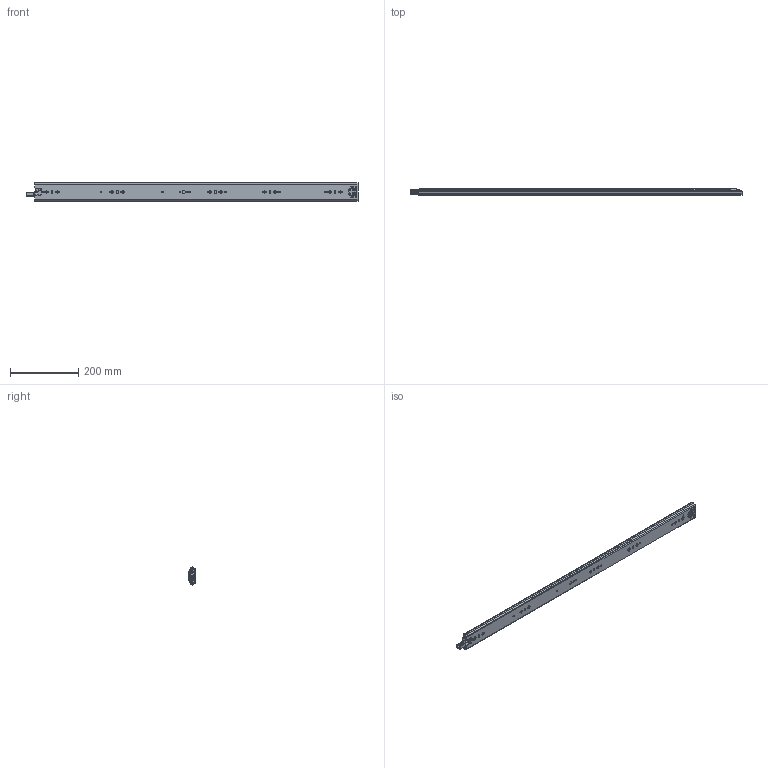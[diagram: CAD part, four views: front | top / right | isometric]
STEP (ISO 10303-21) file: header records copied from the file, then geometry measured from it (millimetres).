
FILE_DESCRIPTION((''),'2;1');
FILE_NAME('1053-3S-38ZUZHUANGTU_ASM','2023-04-12T',('jishu015'),(''),'PRO/ENGINEER BY PARAMETRIC TECHNOLOGY CORPORATION, 2010280','PRO/ENGINEER BY PARAMETRIC TECHNOLOGY CORPORATION, 2010280','');
FILE_SCHEMA(('CONFIG_CONTROL_DESIGN'));
Products named in the file (20): 1053-02-18WAIKE_____________; 1053WEIJIAO_____________; 1053-3S-24WAIKE______________ASM; 1053ZHUTIAO-175_____________; 53-5-6GANZHU_____________; 1053ZHUTIAO-175MM______________ASM; 1053-02-18ZHONGGUI_____________; ZHONGGUIPEIJIAN___________; ZHONGGUISUOKOU___________; 1053-02-18ZHONGGUI______________ASM; 1053XIAOZHUJIA-14GE1; 1053XIAOZHUJIA-14GE1_ASM; 1053-02-18NEIGUI_____________; DAOPIAN_________; PIAN_________; 1053-3SBANJI123________; JIAO-11________; 50XINSUOKOU11_______; 1053-02-18NEIGUI______________ASM; 1053-3S-38ZUZHUANGTU_ASM
Assembly tree (104 placements, depth 3):
  1053-3S-38ZUZHUANGTU_ASM
    1053-3S-24WAIKE______________ASM
      1053-02-18WAIKE_____________
      1053WEIJIAO_____________
    1053ZHUTIAO-175MM______________ASM  x2
      1053ZHUTIAO-175_____________
      53-5-6GANZHU_____________
    1053-02-18ZHONGGUI______________ASM
      1053-02-18ZHONGGUI_____________
      ZHONGGUIPEIJIAN___________
      ZHONGGUISUOKOU___________
    1053XIAOZHUJIA-14GE1_ASM
      1053XIAOZHUJIA-14GE1
      53-5-6GANZHU_____________  x68
    1053-02-18NEIGUI______________ASM
      1053-02-18NEIGUI_____________
      DAOPIAN_________
      PIAN_________
      1053-3SBANJI123________
      JIAO-11________
      50XINSUOKOU11_______
Bounding box: 975.42 x 18.7 x 53 mm (x, y, z)
Volume: 363258.5 mm3; surface area: 421245.8 mm2
Topology: 117 solids, 117 shells, 2835 faces, 8226 edges, 5125 vertices
Faces by surface type: cylinder 1250, plane 1131, sphere 212, bspline 117, cone 86, extrusion 23, torus 16
Entity records: 90525 total; most frequent: CARTESIAN_POINT 21943, ORIENTED_EDGE 14554, DIRECTION 14114, EDGE_CURVE 7277, AXIS2_PLACEMENT_3D 4880, VERTEX_POINT 4703, VECTOR 4354, LINE 4331
